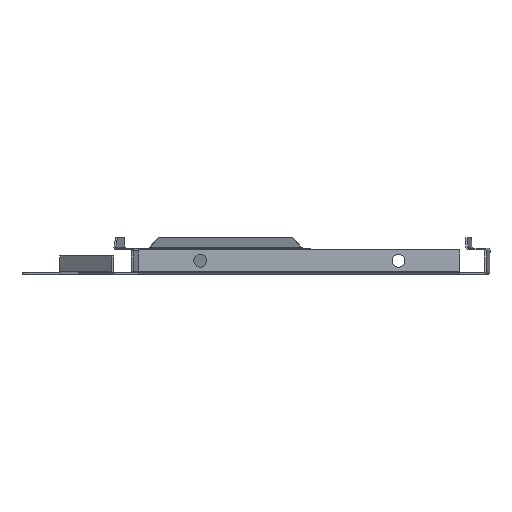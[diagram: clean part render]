
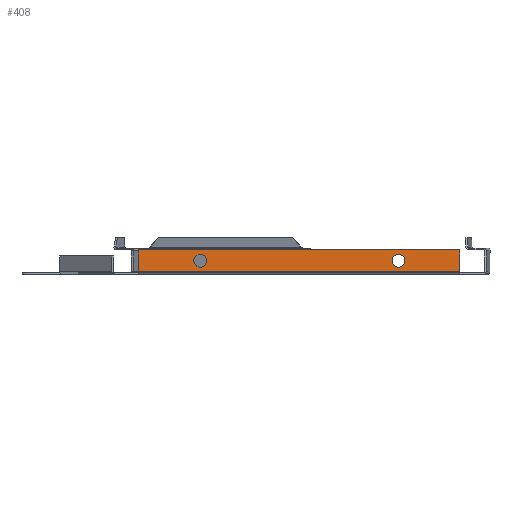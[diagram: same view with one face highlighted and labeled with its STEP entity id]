
A CAD part, front view. The second image highlights one B-rep face of the part: STEP entity #408.
In plain terms, the highlighted planar face has unit normal (0, -1, 0).
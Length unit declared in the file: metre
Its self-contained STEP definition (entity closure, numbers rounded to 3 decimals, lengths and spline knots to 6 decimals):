
#408=ADVANCED_FACE('0:43799',(#1219,#1220,#1221),#1222,.F.);
#1219=FACE_OUTER_BOUND('',#2448,.T.);
#1220=FACE_BOUND('',#2449,.T.);
#1221=FACE_BOUND('',#2450,.T.);
#1222=PLANE('',#2451);
#2448=EDGE_LOOP('',(#5640,#5641,#5642,#5643));
#2449=EDGE_LOOP('',(#5644,#5645));
#2450=EDGE_LOOP('',(#5646,#5647));
#2451=AXIS2_PLACEMENT_3D('',#5648,#5649,#5650);
#5640=ORIENTED_EDGE('',*,*,#8183,.F.);
#5641=ORIENTED_EDGE('',*,*,#8184,.T.);
#5642=ORIENTED_EDGE('',*,*,#8185,.T.);
#5643=ORIENTED_EDGE('',*,*,#8186,.T.);
#5644=ORIENTED_EDGE('',*,*,#7679,.T.);
#5645=ORIENTED_EDGE('',*,*,#7799,.T.);
#5646=ORIENTED_EDGE('',*,*,#7683,.T.);
#5647=ORIENTED_EDGE('',*,*,#7797,.T.);
#5648=CARTESIAN_POINT('',(-0.296149,-0.798936,-0.486078));
#5649=DIRECTION('',(-0.0,1.0,0.0));
#5650=DIRECTION('',(1.0,0.0,0.0));
#7679=EDGE_CURVE('0:46900',#9603,#9600,#9604,.T.);
#7683=EDGE_CURVE('0:46903',#9611,#9608,#9612,.T.);
#7797=EDGE_CURVE('0:46903',#9608,#9611,#9811,.T.);
#7799=EDGE_CURVE('0:46900',#9600,#9603,#9813,.T.);
#8183=EDGE_CURVE('0:46888',#10268,#10269,#10270,.T.);
#8184=EDGE_CURVE('0:46891',#10268,#10271,#10272,.T.);
#8185=EDGE_CURVE('0:46894',#10271,#10273,#10274,.T.);
#8186=EDGE_CURVE('0:46897',#10273,#10269,#10275,.T.);
#9600=VERTEX_POINT('',#12082);
#9603=VERTEX_POINT('',#12086);
#9604=CIRCLE('',#12087,0.00525);
#9608=VERTEX_POINT('',#12092);
#9611=VERTEX_POINT('',#12096);
#9612=CIRCLE('',#12097,0.00525);
#9811=CIRCLE('',#12339,0.00525);
#9813=CIRCLE('',#12341,0.00525);
#10268=VERTEX_POINT('',#12853);
#10269=VERTEX_POINT('',#12854);
#10270=LINE('',#12855,#12856);
#10271=VERTEX_POINT('',#12857);
#10272=LINE('',#12858,#12859);
#10273=VERTEX_POINT('',#12860);
#10274=LINE('',#12861,#12862);
#10275=LINE('',#12863,#12864);
#12082=CARTESIAN_POINT('',(0.005679,-0.798936,-0.47121));
#12086=CARTESIAN_POINT('',(0.005679,-0.798936,-0.48171));
#12087=AXIS2_PLACEMENT_3D('',#14535,#14536,#14537);
#12092=CARTESIAN_POINT('',(-0.155821,-0.798936,-0.47121));
#12096=CARTESIAN_POINT('',(-0.155821,-0.798936,-0.48171));
#12097=AXIS2_PLACEMENT_3D('',#14543,#14544,#14545);
#12339=AXIS2_PLACEMENT_3D('',#14799,#14800,#14801);
#12341=AXIS2_PLACEMENT_3D('',#14805,#14806,#14807);
#12853=CARTESIAN_POINT('',(0.055679,-0.798936,-0.485342));
#12854=CARTESIAN_POINT('',(-0.205821,-0.798936,-0.485342));
#12855=CARTESIAN_POINT('',(-0.296149,-0.798936,-0.485342));
#12856=VECTOR('',#15846,1.0);
#12857=CARTESIAN_POINT('',(0.055679,-0.798936,-0.467578));
#12858=CARTESIAN_POINT('',(0.055679,-0.798936,-0.467578));
#12859=VECTOR('',#15847,1.0);
#12860=CARTESIAN_POINT('',(-0.205821,-0.798936,-0.467578));
#12861=CARTESIAN_POINT('',(-0.205821,-0.798936,-0.467578));
#12862=VECTOR('',#15848,1.0);
#12863=CARTESIAN_POINT('',(-0.205821,-0.798936,-0.486078));
#12864=VECTOR('',#15849,1.0);
#14535=CARTESIAN_POINT('',(0.005679,-0.798936,-0.47646));
#14536=DIRECTION('',(0.0,1.0,0.0));
#14537=DIRECTION('',(0.0,-0.0,1.0));
#14543=CARTESIAN_POINT('',(-0.155821,-0.798936,-0.47646));
#14544=DIRECTION('',(0.0,1.0,0.0));
#14545=DIRECTION('',(0.0,-0.0,1.0));
#14799=CARTESIAN_POINT('',(-0.155821,-0.798936,-0.47646));
#14800=DIRECTION('',(0.0,1.0,0.0));
#14801=DIRECTION('',(0.0,-0.0,1.0));
#14805=CARTESIAN_POINT('',(0.005679,-0.798936,-0.47646));
#14806=DIRECTION('',(0.0,1.0,0.0));
#14807=DIRECTION('',(0.0,-0.0,1.0));
#15846=DIRECTION('',(-1.0,0.0,0.0));
#15847=DIRECTION('',(-0.0,-0.0,1.0));
#15848=DIRECTION('',(-1.0,-0.0,-0.0));
#15849=DIRECTION('',(-0.0,-0.0,-1.0));
